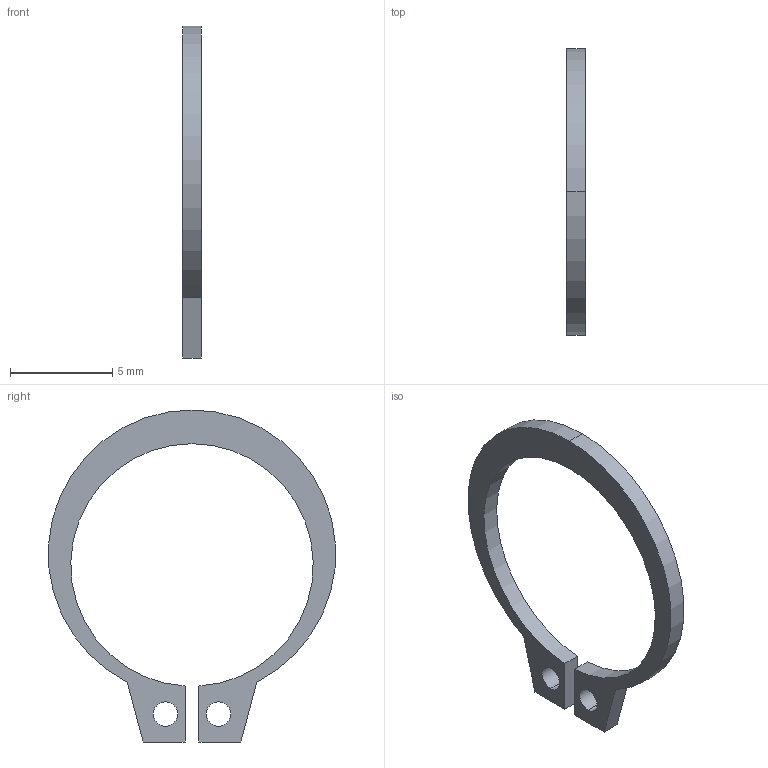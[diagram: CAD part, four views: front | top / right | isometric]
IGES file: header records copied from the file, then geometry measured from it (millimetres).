
Global section: file name: C:\Documents and Settings\Administrator\Desktop\Transfer Temp\retainingring0500.igs; native system: AutoDesk Inventor R2.0 ; preprocessor: AutoDesk Inventor Iges Exporter R2.0; author: No Author specified; organization: No Organization specified; date: 20011226.234910; units: millimetre
Bounding box: 0.89 x 14.06 x 16.27 mm (x, y, z)
Surface area: 194.7 mm2 (no closed solid volume)
Topology: 0 solids, 0 shells, 16 faces, 92 edges, 92 vertices
Faces by surface type: revolution 8, bspline 8
